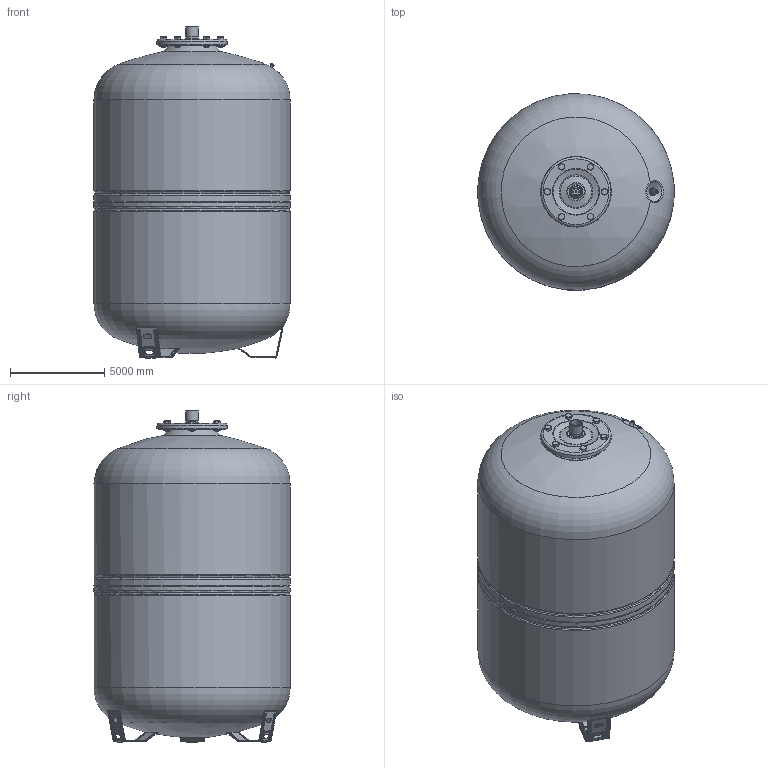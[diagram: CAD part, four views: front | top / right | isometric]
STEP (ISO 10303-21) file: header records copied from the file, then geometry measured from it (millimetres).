
FILE_DESCRIPTION(('STEP AP214'), '1');
FILE_NAME('WRV-80_1', '', ('UNSPECIFIED'), ('UNSPECIFIED'), 'ASCON STEP Converter 1.3', 'ASCON Math Kernel', '');
FILE_SCHEMA(('AUTOMOTIVE_DESIGN { 1 0 10303 214 3 1 1}'));
Length unit declared in the file: millimetre
Assembly tree (1 placements, depth 2):
  (unnamed)
    (unnamed)
Bounding box: 10414.11 x 10404.47 x 17602.2 mm (x, y, z)
Volume: 1244291826516 mm3; surface area: 653545079.6 mm2
Topology: 1 solids, 1 shells, 830 faces, 1987 edges, 1194 vertices
Faces by surface type: cylinder 347, torus 241, bspline 205, cone 35, sphere 2
Full cylindrical faces by diameter (mm): 101.6 x7, 139.7 x1, 203.2 x7, 355.599 x6, 538.48 x1, 671.627 x1, 680.72 x1, 3556 x1, 10414 x4
Entity records: 44307 total; most frequent: CARTESIAN_POINT 18648, DIRECTION 4110, ORIENTED_EDGE 3814, EDGE_CURVE 1907, AXIS2_PLACEMENT_3D 1692, VERTEX_POINT 1192, CIRCLE 1065, EDGE_LOOP 967
